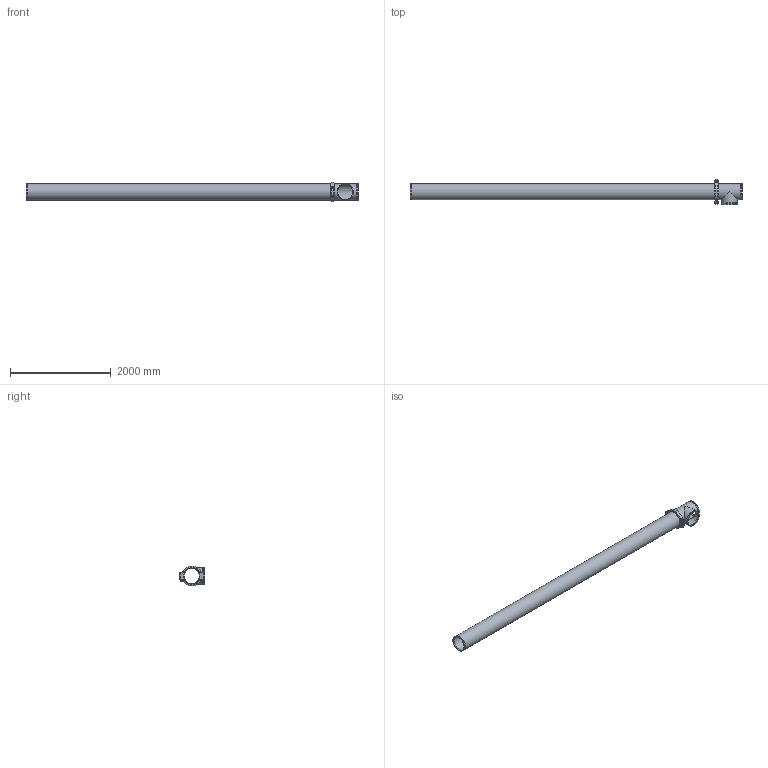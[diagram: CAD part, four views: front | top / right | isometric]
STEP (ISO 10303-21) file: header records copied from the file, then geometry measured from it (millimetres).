
FILE_DESCRIPTION(/* description */ ('VIC LONG RUN FITTING No R22 (OGS)','CAx-IF Rec.Pracs.---Representation and Presentation of Product Manufacturing Information (PMI)---4.0---2014-10-13'),/* implementation_level */ '2;1');
FILE_NAME(/* name */ 'C:\Users\Vjadhav\AppData\Roaming\Autodesk\ApplicationPlugins\Back Up\Victaulic_IPS_Long Run Fittings_No R22 (OGS)\Victaulic_IPS_Long Run Fittings_No R22 (OGS)_12 (300).stp',/* time_stamp */ '2020-10-14T10:38:11+05:00',/* author */ ('Vjadhav'),/* organization */ ('Victaulic'),/* preprocessor_version */ 'ST-DEVELOPER v17.2',/* originating_system */ 'Autodesk Inventor 2019',/* authorisation */ '');
FILE_SCHEMA (('AP242_MANAGED_MODEL_BASED_3D_ENGINEERING_MIM_LF { 1 0 10303 442 1 1 4 }'));
Length unit declared in the file: inch
Products named in the file (4): R22-12.0; 020-12.0; Pipe_R10-12.0; 077-12.0
Assembly tree (3 placements, depth 2):
  R22-12.0
    020-12.0
    Pipe_R10-12.0
    077-12.0
Bounding box: 6607.3 x 498.48 x 397 mm (x, y, z)
Volume: 65860998.7 mm3; surface area: 13542761.7 mm2
Topology: 3 solids, 5 shells, 92 faces, 223 edges, 160 vertices
Faces by surface type: plane 51, cylinder 35, cone 4, bspline 2
Full cylindrical faces by diameter (mm): 25.4 x4, 27.432 x2, 304.8 x3, 314.96 x1, 318.287 x5, 323.85 x10
Entity records: 3234 total; most frequent: CARTESIAN_POINT 690, DIRECTION 507, ORIENTED_EDGE 446, EDGE_CURVE 223, AXIS2_PLACEMENT_3D 207, VERTEX_POINT 160, EDGE_LOOP 123, CIRCLE 104
